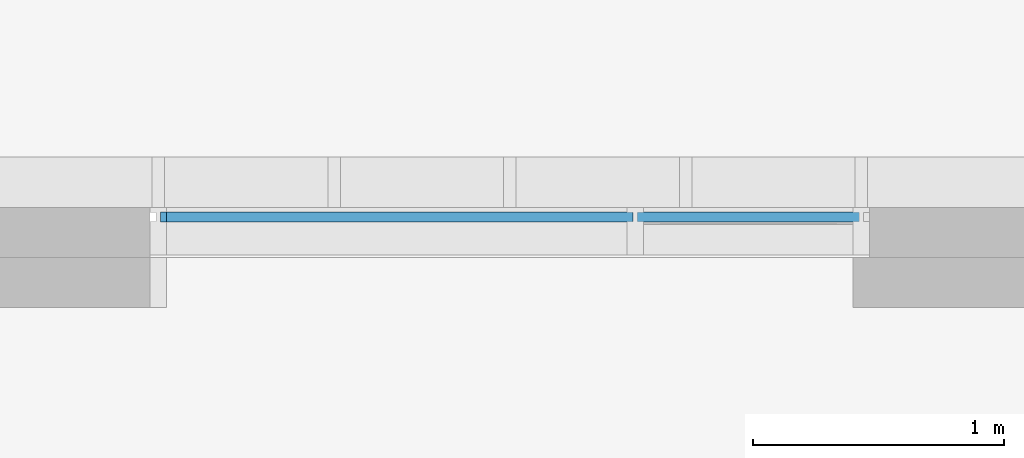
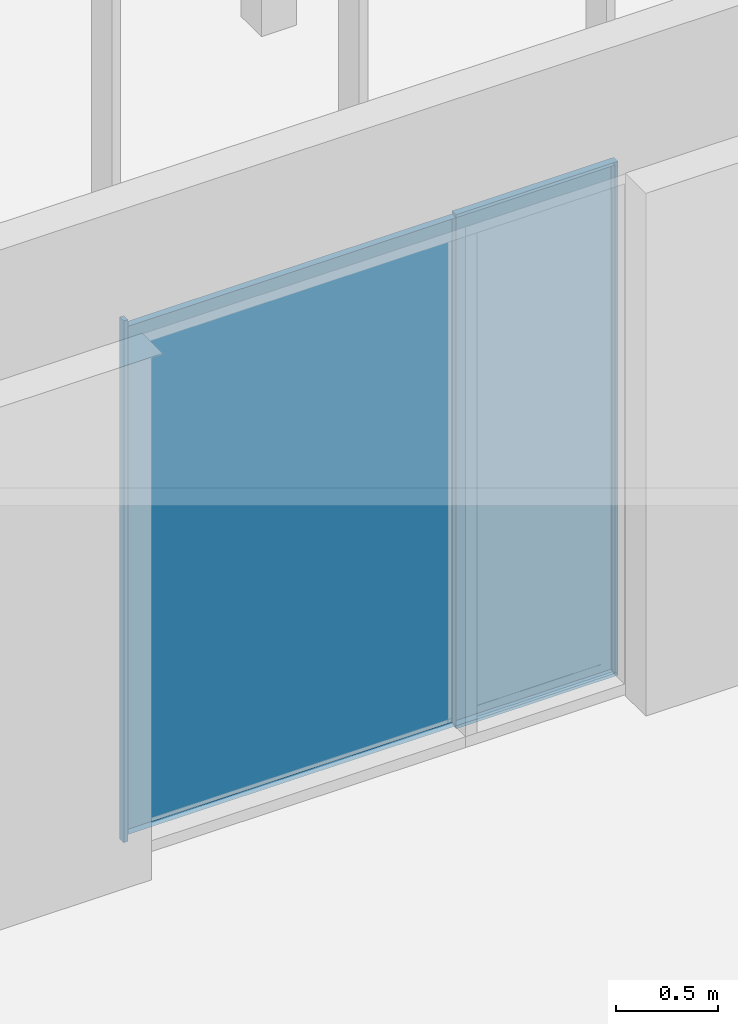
# One storey, part 78 of 240: 2 plates, 1 element without a shape of its own.
"""IFC2X3 building model written with IfcOpenShell, lengths in centimetres."""

from ifc_helpers import new_model, entity, si_unit, converted_unit, derived_unit, direction, frame, origin, origin_2d_with_axis, place, context, subcontext, project, spatial, rectangle, extrude, faceted_brep, source, transform, mapped, material, layer, layer_set, layer_usage, type_object, type_shapes, element, aggregate, save


model = new_model("IFC2X3")

# Units and contexts
model_context = context("Model", 3, precision=0.001, world=origin(), true_north=direction((6.12303176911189e-17, 1.0)))
body_context = subcontext(model_context, "Body", "Model", "MODEL_VIEW")
ifc_project = project(units=[si_unit("LENGTHUNIT", "METRE", prefix="CENTI"), si_unit("AREAUNIT", "SQUARE_METRE"), si_unit("VOLUMEUNIT", "CUBIC_METRE"), converted_unit("PLANEANGLEUNIT", "DEGREE", entity("IfcRatioMeasure", 0.0174532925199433), si_unit("PLANEANGLEUNIT", "RADIAN"), dimensions=[0, 0, 0, 0, 0, 0, 0]), si_unit("MASSUNIT", "GRAM", prefix="KILO"), derived_unit("MASSDENSITYUNIT", [(si_unit("MASSUNIT", "GRAM", prefix="KILO"), 1), (si_unit("LENGTHUNIT", "METRE"), -3)]), si_unit("TIMEUNIT", "SECOND"), si_unit("FREQUENCYUNIT", "HERTZ"), si_unit("THERMODYNAMICTEMPERATUREUNIT", "DEGREE_CELSIUS"), derived_unit("THERMALTRANSMITTANCEUNIT", [(si_unit("MASSUNIT", "GRAM", prefix="KILO"), 1), (si_unit("THERMODYNAMICTEMPERATUREUNIT", "KELVIN"), -1), (si_unit("TIMEUNIT", "SECOND"), -3)]), derived_unit("VOLUMETRICFLOWRATEUNIT", [(si_unit("LENGTHUNIT", "METRE"), 3), (si_unit("TIMEUNIT", "SECOND"), -1)]), si_unit("ELECTRICCURRENTUNIT", "AMPERE"), si_unit("ELECTRICVOLTAGEUNIT", "VOLT"), si_unit("POWERUNIT", "WATT"), si_unit("FORCEUNIT", "NEWTON", prefix="KILO"), si_unit("ILLUMINANCEUNIT", "LUX"), si_unit("LUMINOUSFLUXUNIT", "LUMEN"), si_unit("LUMINOUSINTENSITYUNIT", "CANDELA"), derived_unit("USERDEFINED", [(si_unit("MASSUNIT", "GRAM", prefix="KILO"), -1), (si_unit("LENGTHUNIT", "METRE"), -2), (si_unit("TIMEUNIT", "SECOND"), 3), (si_unit("LUMINOUSFLUXUNIT", "LUMEN"), 1)]), derived_unit("LINEARVELOCITYUNIT", [(si_unit("LENGTHUNIT", "METRE"), 1), (si_unit("TIMEUNIT", "SECOND"), -1)]), si_unit("PRESSUREUNIT", "PASCAL"), derived_unit("USERDEFINED", [(si_unit("LENGTHUNIT", "METRE"), -2), (si_unit("MASSUNIT", "GRAM", prefix="KILO"), 1), (si_unit("TIMEUNIT", "SECOND"), -2)])], contexts=[model_context])

# Site, building, storey
site_placement = place(None, frame((-2781.94577612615, 7442.24238424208, 0.0)))
site = spatial("IfcSite", under=ifc_project, at=site_placement, Name="Default", CompositionType="ELEMENT")
building_placement = place(site_placement, origin())
building = spatial("IfcBuilding", under=site, at=building_placement, CompositionType="ELEMENT")
storey_placement = place(building_placement, origin())
storey = spatial("IfcBuildingStorey", under=building, at=storey_placement, Name="N00 - COO", CompositionType="ELEMENT", Elevation=0.0)

# Curtain wall, plates
curtain_wall_type = type_object("IfcCurtainWallType", Name="Mur-rideau:07 - mur rideau trame 280 cm", PredefinedType="NOTDEFINED")
curtain_wall_placement = place(building_placement, origin())
curtain_wall = element("IfcCurtainWall", 1, at=curtain_wall_placement, inside=storey, type_object=curtain_wall_type, Name="Mur-rideau:07 - mur rideau trame 280 cm", ObjectType="Mur-rideau:07 - mur rideau trame 280 cm")
ifc_material = material(Name="Verre")
ifc_layer = layer(ifc_material, 4.0)
ifc_layer_set = layer_set([ifc_layer], Name="Panneau système:Vitré")
plate_type_1 = type_object("IfcPlateType", Name="Vitré", PredefinedType="CURTAIN_PANEL", material=ifc_layer_set)
shared_shape_1 = source(origin(), body_context, "Body", "Brep", [
    faceted_brep([(-137.07187501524, -2.0, 1.73749999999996), (138.80937501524, -2.0, 1.73749999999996), (138.80937501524, -2.0, 306.0), (-137.07187501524, -2.0, 306.0), (-137.07187501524, 2.0, 1.73749999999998), (-137.07187501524, 2.0, 306.0), (138.80937501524, 2.0, 306.0), (138.80937501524, 2.0, 1.73749999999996), (-47.0718750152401, 2.0, 0.0), (-47.0718750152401, 2.0, 307.7375), (-138.80937501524, 2.0, 307.7375), (-138.80937501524, 2.0, 0.0), (-138.80937501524, -2.0, 0.0), (-47.0718750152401, -2.0, 0.0), (-138.80937501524, -2.0, 307.7375), (-47.0718750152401, -2.0, 307.7375)], [[[0, 1, 2, 3]], [[4, 5, 6, 7], [8, 9, 10, 11]], [[1, 0, 4, 7]], [[2, 1, 7, 6]], [[3, 2, 6, 5]], [[0, 3, 5, 4]], [[12, 13, 8, 11]], [[14, 12, 11, 10]], [[15, 14, 10, 9]], [[13, 15, 9, 8]], [[13, 12, 14, 15]]]),
])
type_shapes(plate_type_1, [shared_shape_1])
plate_1_placement = place(curtain_wall_placement, frame((-1107.24050785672, -1073.7999999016, 2.38125000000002), z_axis=(0.0, 0.0, 1.0), x_axis=(-1.0, 0.0, 0.0)))
plate_1 = element("IfcPlate", 2, at=plate_1_placement, type_object=plate_type_1, material=ifc_material, Name="Panneau système:Vitré", ObjectType="Panneau système:Vitré", context=body_context, shape_type="MappedRepresentation", body=[
    mapped(shared_shape_1, transform((0.0, 0.0, 0.0), scale=1.0)),
])
ifc_layer_usage = layer_usage(ifc_layer_set, "AXIS3", "POSITIVE", 0.0)
plate_type_2 = type_object("IfcPlateType", Name="Vitré", PredefinedType="CURTAIN_PANEL", material=ifc_layer_set)
shared_shape_2 = source(origin(), body_context, "Body", "SweptSolid", [
    extrude(rectangle(XDim=4.0, YDim=2.38124996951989, at=origin_2d_with_axis()), frame((0.0, 0.0, 0.0), z_axis=(0.0, 0.0, 1.0), x_axis=(0.0, 1.0, 0.0)), (0.0, 0.0, 1.0), 312.5),
])
type_shapes(plate_type_2, [shared_shape_2])
plate_2_placement = place(curtain_wall_placement, frame((-1247.24050785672, -1073.7999999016, 0.0), z_axis=(0.0, 0.0, 1.0), x_axis=(-1.0, 0.0, 0.0)))
plate_2 = element("IfcPlate", 3, at=plate_2_placement, type_object=plate_type_2, material=ifc_layer_usage, Name="Panneau système:Vitré", ObjectType="Panneau système:Vitré", context=body_context, shape_type="MappedRepresentation", body=[
    mapped(shared_shape_2, transform((0.0, 0.0, 0.0), scale=1.0)),
])
aggregate(curtain_wall, [plate_1, plate_2])

save(model, "model.ifc")
